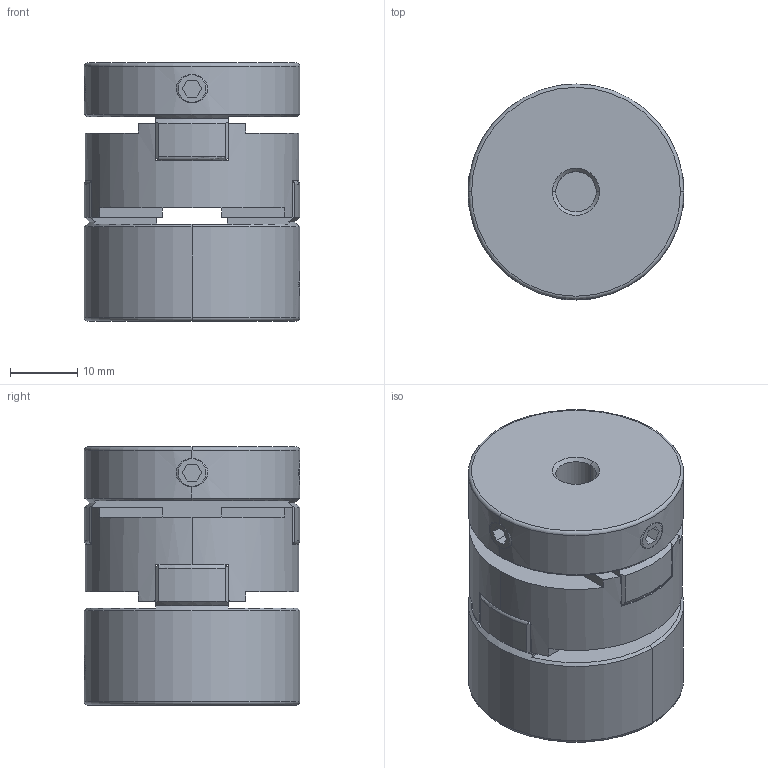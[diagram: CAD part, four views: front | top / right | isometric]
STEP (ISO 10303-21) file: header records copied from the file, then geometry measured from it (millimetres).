
FILE_DESCRIPTION (( 'STEP AP203' ), '1' );
FILE_NAME ('SOH-32S-6X15_203.STEP', '2013-01-24T05:24:18', ( '' ), ( '' ), 'SwSTEP 2.0', 'SolidWorks 2012', '' );
FILE_SCHEMA (( 'CONFIG_CONTROL_DESIGN' ));
Length unit declared in the file: millimetre
Products named in the file (1): SOH-32S-6X15_203
Bounding box: 32 x 32 x 38.3 mm (x, y, z)
Volume: 23560.3 mm3; surface area: 9373.9 mm2
Topology: 1 solids, 1 shells, 174 faces, 504 edges, 325 vertices
Faces by surface type: plane 89, cylinder 47, cone 20, torus 10, sphere 8
Entity records: 6342 total; most frequent: CARTESIAN_POINT 1718, ORIENTED_EDGE 1008, DIRECTION 901, EDGE_CURVE 504, VERTEX_POINT 325, AXIS2_PLACEMENT_3D 318, VECTOR 265, LINE 265
